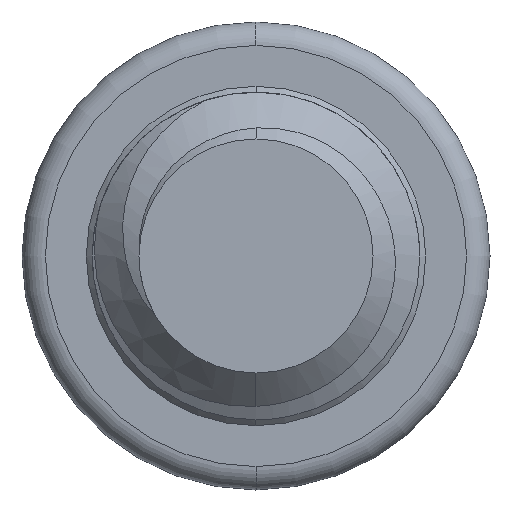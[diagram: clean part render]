
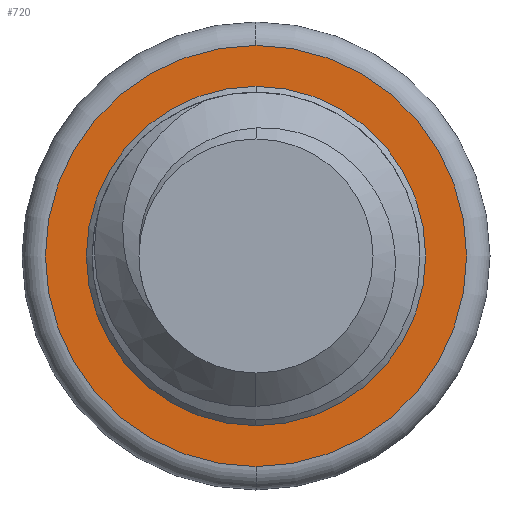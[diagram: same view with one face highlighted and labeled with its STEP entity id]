
A CAD part, left-side view. The second image highlights one B-rep face of the part: STEP entity #720.
In plain terms, the highlighted planar face has unit normal (-1, 0, 0).
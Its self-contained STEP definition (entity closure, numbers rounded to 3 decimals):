
#67 = CARTESIAN_POINT ( 'NONE',  ( 2., 0., 0. ) ) ;
#106 = CARTESIAN_POINT ( 'NONE',  ( 2., 0., 0. ) ) ;
#163 = CARTESIAN_POINT ( 'NONE',  ( 2., 0., 0. ) ) ;
#206 = EDGE_CURVE ( 'NONE', #2887, #1330, #3053, .T. ) ;
#323 = DIRECTION ( 'NONE',  ( 0., 0., -1. ) ) ;
#357 = CARTESIAN_POINT ( 'NONE',  ( 2., 0., 0. ) ) ;
#365 = DIRECTION ( 'NONE',  ( 0., 0., -1. ) ) ;
#535 = FACE_BOUND ( 'NONE', #903, .T. ) ;
#545 = AXIS2_PLACEMENT_3D ( 'NONE', #357, #2001, #593 ) ;
#593 = DIRECTION ( 'NONE',  ( 0., 0., -1. ) ) ;
#600 = CARTESIAN_POINT ( 'NONE',  ( 2., 0., -0.725 ) ) ;
#658 = DIRECTION ( 'NONE',  ( 0., 0., -1. ) ) ;
#720 = ADVANCED_FACE ( 'NONE', ( #1099, #535 ), #2059, .F. ) ;
#759 = CARTESIAN_POINT ( 'NONE',  ( 2., 0., 0.725 ) ) ;
#777 = CIRCLE ( 'NONE', #2865, 0.9 ) ;
#903 = EDGE_LOOP ( 'NONE', ( #2657, #1761 ) ) ;
#941 = CIRCLE ( 'NONE', #545, 0.9 ) ;
#955 = DIRECTION ( 'NONE',  ( -1., 0., 0. ) ) ;
#1019 = EDGE_CURVE ( 'NONE', #1204, #2141, #777, .T. ) ;
#1024 = AXIS2_PLACEMENT_3D ( 'NONE', #106, #1770, #365 ) ;
#1043 = ORIENTED_EDGE ( 'NONE', *, *, #1019, .T. ) ;
#1099 = FACE_OUTER_BOUND ( 'NONE', #2998, .T. ) ;
#1204 = VERTEX_POINT ( 'NONE', #2664 ) ;
#1228 = EDGE_CURVE ( 'NONE', #2141, #1204, #941, .T. ) ;
#1260 = EDGE_CURVE ( 'NONE', #1330, #2887, #2811, .T. ) ;
#1330 = VERTEX_POINT ( 'NONE', #600 ) ;
#1484 = AXIS2_PLACEMENT_3D ( 'NONE', #2329, #955, #2579 ) ;
#1736 = DIRECTION ( 'NONE',  ( -1., 0., 0. ) ) ;
#1761 = ORIENTED_EDGE ( 'NONE', *, *, #1260, .F. ) ;
#1770 = DIRECTION ( 'NONE',  ( -1., 0., 0. ) ) ;
#2001 = DIRECTION ( 'NONE',  ( -1., 0., 0. ) ) ;
#2059 = PLANE ( 'NONE',  #2760 ) ;
#2141 = VERTEX_POINT ( 'NONE', #2731 ) ;
#2249 = ORIENTED_EDGE ( 'NONE', *, *, #1228, .T. ) ;
#2329 = CARTESIAN_POINT ( 'NONE',  ( 2., 0., 0. ) ) ;
#2579 = DIRECTION ( 'NONE',  ( 0., 0., -1. ) ) ;
#2657 = ORIENTED_EDGE ( 'NONE', *, *, #206, .F. ) ;
#2664 = CARTESIAN_POINT ( 'NONE',  ( 2., 0., 0.9 ) ) ;
#2731 = CARTESIAN_POINT ( 'NONE',  ( 2., 0., -0.9 ) ) ;
#2760 = AXIS2_PLACEMENT_3D ( 'NONE', #163, #3000, #658 ) ;
#2811 = CIRCLE ( 'NONE', #1024, 0.725 ) ;
#2865 = AXIS2_PLACEMENT_3D ( 'NONE', #67, #1736, #323 ) ;
#2887 = VERTEX_POINT ( 'NONE', #759 ) ;
#2998 = EDGE_LOOP ( 'NONE', ( #2249, #1043 ) ) ;
#3000 = DIRECTION ( 'NONE',  ( 1., 0., 0. ) ) ;
#3053 = CIRCLE ( 'NONE', #1484, 0.725 ) ;
